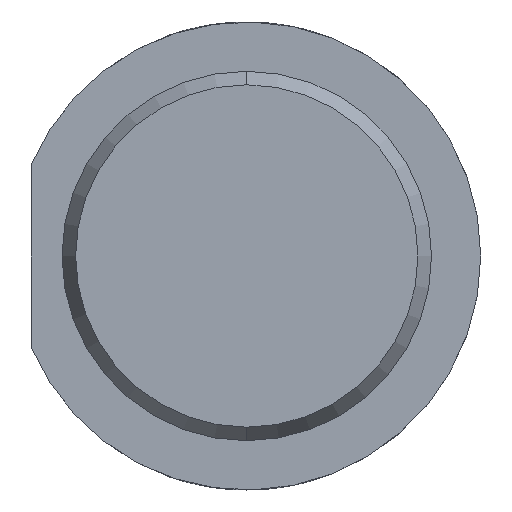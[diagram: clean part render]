
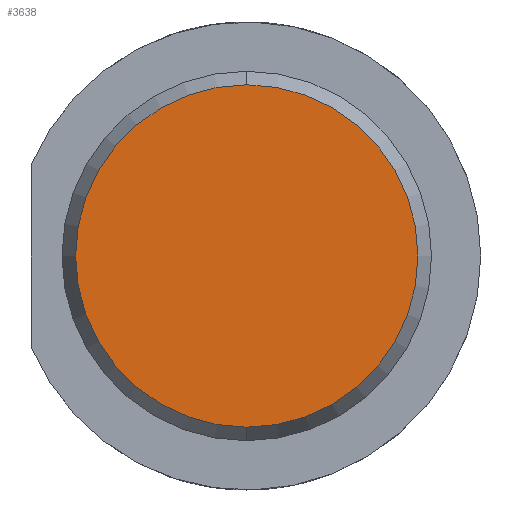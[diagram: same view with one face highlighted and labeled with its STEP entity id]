
A CAD part, left-side view. The second image highlights one B-rep face of the part: STEP entity #3638.
In plain terms, the highlighted planar face has unit normal (-1, 0, 0).
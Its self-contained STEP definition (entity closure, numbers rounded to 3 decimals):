
#250 = CARTESIAN_POINT ( 'NONE',  ( 16., -14.067, 14.067 ) ) ;
#252 = PLANE ( 'NONE',  #1642 ) ;
#255 = DIRECTION ( 'NONE',  ( 1., 0., 0. ) ) ;
#256 = DIRECTION ( 'NONE',  ( 0., 0., -1. ) ) ;
#1225 = FACE_OUTER_BOUND ( 'NONE', #1388, .T. ) ;
#1388 = EDGE_LOOP ( 'NONE', ( #3272, #3273 ) ) ;
#1642 = AXIS2_PLACEMENT_3D ( 'NONE', #250, #255, #256 ) ;
#1752 = CARTESIAN_POINT ( 'NONE',  ( 16., 0., 0. ) ) ;
#1753 = DIRECTION ( 'NONE',  ( -1., 0., 0. ) ) ;
#1754 = DIRECTION ( 'NONE',  ( 0., 0., -1. ) ) ;
#1858 = VERTEX_POINT ( 'NONE', #2929 ) ;
#1861 = VERTEX_POINT ( 'NONE', #2926 ) ;
#2411 = CIRCLE ( 'NONE', #3019, 13.9 ) ;
#2476 = CIRCLE ( 'NONE', #3035, 13.9 ) ;
#2588 = DIRECTION ( 'NONE',  ( 0., 0., -1. ) ) ;
#2589 = DIRECTION ( 'NONE',  ( -1., 0., 0. ) ) ;
#2590 = CARTESIAN_POINT ( 'NONE',  ( 16., 0., 0. ) ) ;
#2926 = CARTESIAN_POINT ( 'NONE',  ( 16., 0., 13.9 ) ) ;
#2929 = CARTESIAN_POINT ( 'NONE',  ( 16., 0., -13.9 ) ) ;
#2977 = EDGE_CURVE ( 'NONE', #1861, #1858, #2411, .T. ) ;
#3019 = AXIS2_PLACEMENT_3D ( 'NONE', #2590, #2589, #2588 ) ;
#3035 = AXIS2_PLACEMENT_3D ( 'NONE', #1752, #1753, #1754 ) ;
#3089 = EDGE_CURVE ( 'NONE', #1858, #1861, #2476, .T. ) ;
#3272 = ORIENTED_EDGE ( 'NONE', *, *, #3089, .T. ) ;
#3273 = ORIENTED_EDGE ( 'NONE', *, *, #2977, .T. ) ;
#3638 = ADVANCED_FACE ( 'NONE', ( #1225 ), #252, .F. ) ;
